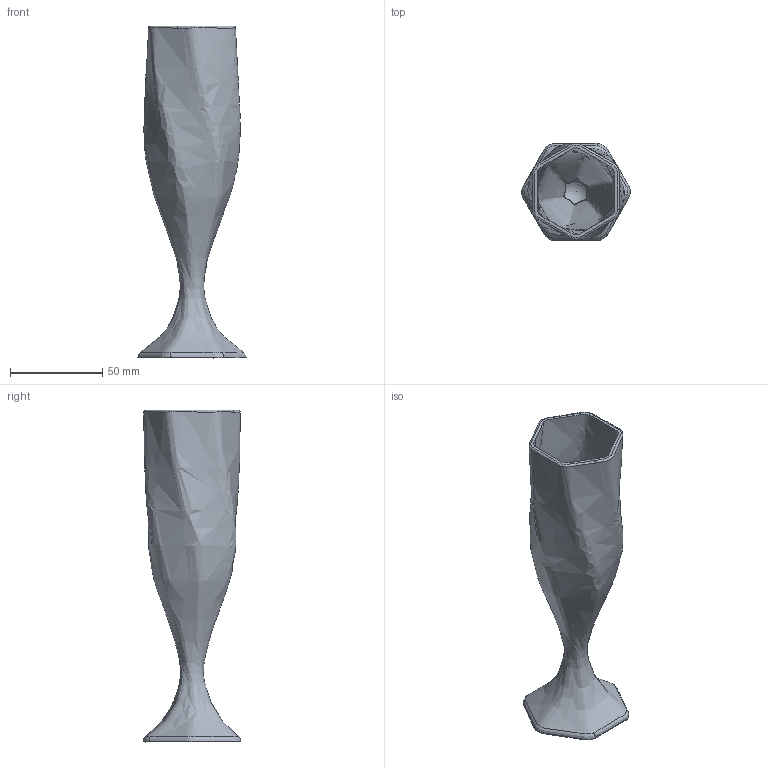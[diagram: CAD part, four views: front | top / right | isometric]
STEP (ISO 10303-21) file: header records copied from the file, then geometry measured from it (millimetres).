
FILE_DESCRIPTION(/* description */ (''),/* implementation_level */ '2;1');
FILE_NAME(/* name */ 'Glass 6_eckig.stp',/* time_stamp */ '2014-06-03T16:11:05+02:00',/* author */ (''),/* organization */ (''),/* preprocessor_version */ 'ST-DEVELOPER v14',/* originating_system */ 'SIEMENS PLM Software NX 8.0',/* authorisation */ '');
FILE_SCHEMA (('CONFIG_CONTROL_DESIGN'));
Length unit declared in the file: millimetre
Products named in the file (1): Glass 6_eckig
Bounding box: 58.77 x 52.96 x 180.08 mm (x, y, z)
Volume: 57144.3 mm3; surface area: 42829 mm2
Topology: 1 solids, 1 shells, 57 faces, 200 edges, 141 vertices
Faces by surface type: bspline 24, plane 19, sphere 7, cylinder 6, extrusion 1
Entity records: 17308 total; most frequent: CARTESIAN_POINT 15917, ORIENTED_EDGE 362, EDGE_CURVE 181, DIRECTION 135, VERTEX_POINT 134, B_SPLINE_CURVE_WITH_KNOTS 133, EDGE_LOOP 63, ADVANCED_FACE 56
